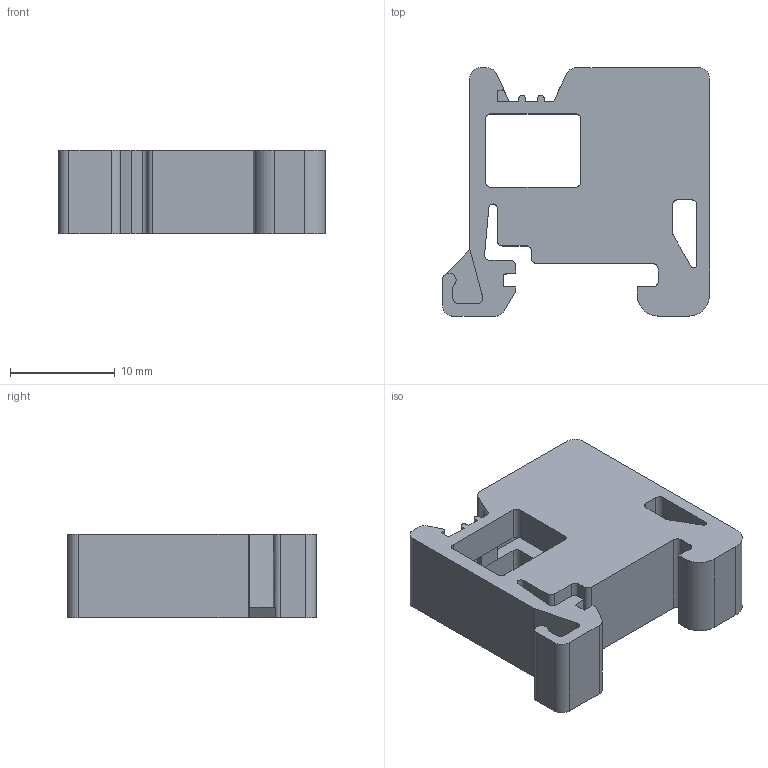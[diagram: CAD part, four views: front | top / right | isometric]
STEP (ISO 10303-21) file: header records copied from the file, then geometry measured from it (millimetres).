
FILE_DESCRIPTION(('Open CASCADE Model'),'2;1');
FILE_NAME('Open CASCADE Shape Model','2023-10-20T11:41:03',('Author'),( 'Open CASCADE'),'Open CASCADE STEP processor 6.5','Open CASCADE 6.5' ,'Unknown');
FILE_SCHEMA(('AUTOMOTIVE_DESIGN { 1 0 10303 214 1 1 1 1 }'));
Length unit declared in the file: millimetre
Products named in the file (98): CADSOFTTOOLS 1; CADSOFTTOOLS 1.1; CADSOFTTOOLS 1.2; CADSOFTTOOLS 1.3; CADSOFTTOOLS 1.4; CADSOFTTOOLS 1.5; CADSOFTTOOLS 1.6; CADSOFTTOOLS 1.7; CADSOFTTOOLS 1.8; CADSOFTTOOLS 1.9; CADSOFTTOOLS 1.10; CADSOFTTOOLS 1.11; CADSOFTTOOLS 1.12; CADSOFTTOOLS 1.13; CADSOFTTOOLS 1.14; CADSOFTTOOLS 1.15; CADSOFTTOOLS 1.16; CADSOFTTOOLS 1.17; CADSOFTTOOLS 1.18; CADSOFTTOOLS 1.19; CADSOFTTOOLS 1.20; CADSOFTTOOLS 1.21; CADSOFTTOOLS 1.22; CADSOFTTOOLS 1.23; CADSOFTTOOLS 1.24; CADSOFTTOOLS 1.25; CADSOFTTOOLS 1.26; CADSOFTTOOLS 1.27; CADSOFTTOOLS 1.28; CADSOFTTOOLS 1.29; CADSOFTTOOLS 1.30; CADSOFTTOOLS 1.31; CADSOFTTOOLS 1.32; CADSOFTTOOLS 1.33; CADSOFTTOOLS 1.34; CADSOFTTOOLS 1.35; CADSOFTTOOLS 1.36; CADSOFTTOOLS 1.37; CADSOFTTOOLS 1.38; CADSOFTTOOLS 1.39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
Assembly tree (97 placements, depth 2):
  CADSOFTTOOLS 1
    CADSOFTTOOLS 1.1
    CADSOFTTOOLS 1.2
    CADSOFTTOOLS 1.3
    CADSOFTTOOLS 1.4
    CADSOFTTOOLS 1.5
    CADSOFTTOOLS 1.6
    CADSOFTTOOLS 1.7
    CADSOFTTOOLS 1.8
    CADSOFTTOOLS 1.9
    CADSOFTTOOLS 1.10
    CADSOFTTOOLS 1.11
    CADSOFTTOOLS 1.12
    CADSOFTTOOLS 1.13
    CADSOFTTOOLS 1.14
    CADSOFTTOOLS 1.15
    CADSOFTTOOLS 1.16
    CADSOFTTOOLS 1.17
    CADSOFTTOOLS 1.18
    CADSOFTTOOLS 1.19
    CADSOFTTOOLS 1.20
    CADSOFTTOOLS 1.21
    CADSOFTTOOLS 1.22
    CADSOFTTOOLS 1.23
    CADSOFTTOOLS 1.24
    CADSOFTTOOLS 1.25
    CADSOFTTOOLS 1.26
    CADSOFTTOOLS 1.27
    CADSOFTTOOLS 1.28
    CADSOFTTOOLS 1.29
    CADSOFTTOOLS 1.30
    CADSOFTTOOLS 1.31
    CADSOFTTOOLS 1.32
    CADSOFTTOOLS 1.33
    CADSOFTTOOLS 1.34
    CADSOFTTOOLS 1.35
    CADSOFTTOOLS 1.36
    CADSOFTTOOLS 1.37
    CADSOFTTOOLS 1.38
    CADSOFTTOOLS 1.39
    CADSOFTTOOLS 1.40
    CADSOFTTOOLS 1.41
    CADSOFTTOOLS 1.42
    CADSOFTTOOLS 1.43
    CADSOFTTOOLS 1.44
    CADSOFTTOOLS 1.45
    CADSOFTTOOLS 1.46
    CADSOFTTOOLS 1.47
    CADSOFTTOOLS 1.48
    CADSOFTTOOLS 1.49
    CADSOFTTOOLS 1.50
    CADSOFTTOOLS 1.51
    CADSOFTTOOLS 1.52
    CADSOFTTOOLS 1.53
    CADSOFTTOOLS 1.54
    CADSOFTTOOLS 1.55
    CADSOFTTOOLS 1.56
    CADSOFTTOOLS 1.57
    CADSOFTTOOLS 1.58
    CADSOFTTOOLS 1.59
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Bounding box: 25.5 x 23.7 x 8 mm (x, y, z)
Surface area: 2294.3 mm2 (no closed solid volume)
Topology: 0 solids, 97 shells, 97 faces, 546 edges, 544 vertices
Faces by surface type: plane 57, cylinder 39, cone 1
Full cylindrical faces by diameter (mm): 6 x1
Entity records: 11114 total; most frequent: CARTESIAN_POINT 2286, DIRECTION 1439, LINE 707, VECTOR 707, ORIENTED_EDGE 548, PCURVE 548, DEFINITIONAL_REPRESENTATION 548, EDGE_CURVE 546
